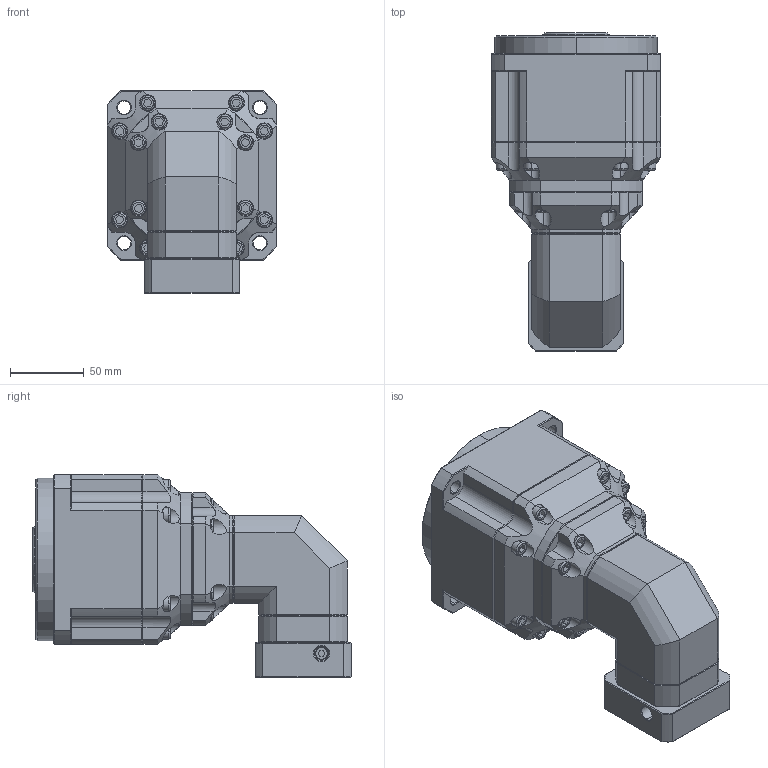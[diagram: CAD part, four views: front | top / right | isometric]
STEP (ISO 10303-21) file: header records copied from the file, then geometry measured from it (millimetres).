
FILE_DESCRIPTION (( 'STEP AP214' ), '1' );
FILE_NAME ('ZPBR115-K32-L3-P1-11-60-75-M5.step', '2024-06-29T08:15:35', ( 'Windows 蚚誧' ), ( 'Organization' ), 'SwSTEP 2.0', 'SolidWorks 2016', '' );
FILE_SCHEMA (( 'AUTOMOTIVE_DESIGN' ));
Length unit declared in the file: millimetre
Products named in the file (1): ZPBR115-K32-L3-P1-11-60-75-M5
Bounding box: 115 x 215.5 x 137.5 mm (x, y, z)
Surface area: 125957.1 mm2 (no closed solid volume)
Topology: 0 solids, 2 shells, 1955 faces, 5210 edges, 3370 vertices
Faces by surface type: plane 1131, bspline 406, cylinder 236, cone 182
Entity records: 94912 total; most frequent: CARTESIAN_POINT 40886, ORIENTED_EDGE 10418, DIRECTION 7831, EDGE_CURVE 5210, LINE 3421, VECTOR 3421, VERTEX_POINT 3370, AXIS2_PLACEMENT_3D 2205
